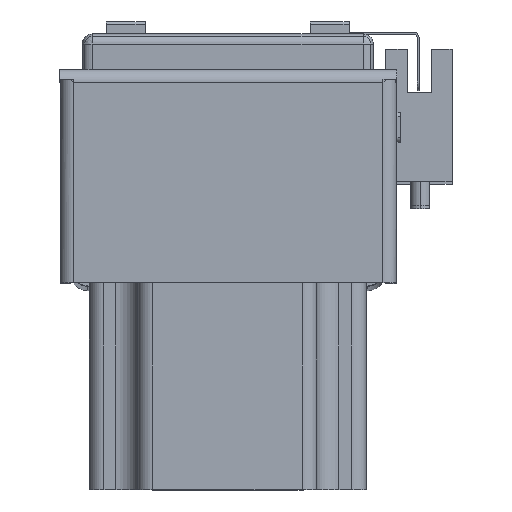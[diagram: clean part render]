
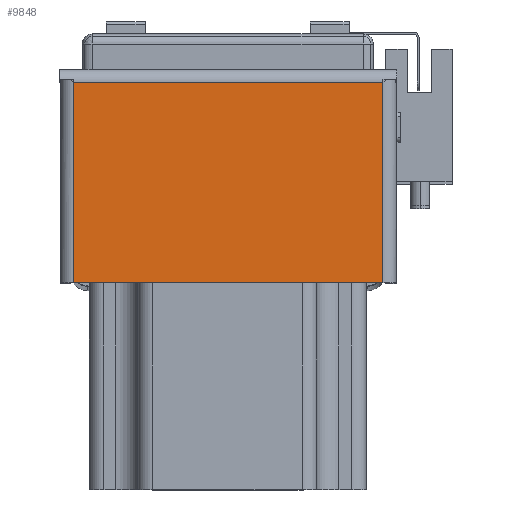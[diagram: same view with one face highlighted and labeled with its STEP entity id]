
A CAD part, top view. The second image highlights one B-rep face of the part: STEP entity #9848.
In plain terms, the highlighted planar face has unit normal (0, 0, 1) as drawn and (1, 0, 0) by its records, which use the part's own axes.
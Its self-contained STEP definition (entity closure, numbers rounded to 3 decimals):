
#6337 = CARTESIAN_POINT ( 'NONE',  ( 2., 41.263, 31.863 ) ) ;
#6360 = CARTESIAN_POINT ( 'NONE',  ( 2., 41.263, -31.863 ) ) ;
#6378 = CARTESIAN_POINT ( 'NONE',  ( 2., 0., 31.863 ) ) ;
#6382 = CARTESIAN_POINT ( 'NONE',  ( 2., 0., -31.863 ) ) ;
#8620 = EDGE_CURVE ( 'NONE', #18574, #18557, #24047, .T. ) ;
#8637 = EDGE_CURVE ( 'NONE', #18581, #18574, #24109, .T. ) ;
#8679 = EDGE_CURVE ( 'NONE', #18582, #18581, #24122, .T. ) ;
#8692 = EDGE_CURVE ( 'NONE', #18582, #18557, #24125, .T. ) ;
#9848 = ADVANCED_FACE ( 'NONE', ( #32086 ), #33787, .F. ) ;
#12821 = ORIENTED_EDGE ( 'NONE', *, *, #8637, .T. ) ;
#12844 = ORIENTED_EDGE ( 'NONE', *, *, #8620, .T. ) ;
#12873 = ORIENTED_EDGE ( 'NONE', *, *, #8692, .F. ) ;
#12901 = ORIENTED_EDGE ( 'NONE', *, *, #8679, .T. ) ;
#17237 = EDGE_LOOP ( 'NONE', ( #12901, #12821, #12844, #12873 ) ) ;
#18557 = VERTEX_POINT ( 'NONE', #6382 ) ;
#18574 = VERTEX_POINT ( 'NONE', #6378 ) ;
#18581 = VERTEX_POINT ( 'NONE', #6337 ) ;
#18582 = VERTEX_POINT ( 'NONE', #6360 ) ;
#24047 = LINE ( 'NONE', #25135, #24048 ) ;
#24048 = VECTOR ( 'NONE', #25126, 1000. ) ;
#24062 = VECTOR ( 'NONE', #25161, 1000. ) ;
#24109 = LINE ( 'NONE', #25167, #24062 ) ;
#24122 = LINE ( 'NONE', #25211, #24148 ) ;
#24125 = LINE ( 'NONE', #25282, #24149 ) ;
#24148 = VECTOR ( 'NONE', #25227, 1000. ) ;
#24149 = VECTOR ( 'NONE', #25248, 1000. ) ;
#25126 = DIRECTION ( 'NONE',  ( 0., 0., -1. ) ) ;
#25135 = CARTESIAN_POINT ( 'NONE',  ( 2., 0., -32.6 ) ) ;
#25161 = DIRECTION ( 'NONE',  ( 0., -1., 0. ) ) ;
#25167 = CARTESIAN_POINT ( 'NONE',  ( 2., 42., 31.863 ) ) ;
#25211 = CARTESIAN_POINT ( 'NONE',  ( 2., 41.263, -31.863 ) ) ;
#25227 = DIRECTION ( 'NONE',  ( 0., 0., 1. ) ) ;
#25248 = DIRECTION ( 'NONE',  ( 0., -1., 0. ) ) ;
#25282 = CARTESIAN_POINT ( 'NONE',  ( 2., 42., -31.863 ) ) ;
#29363 = AXIS2_PLACEMENT_3D ( 'NONE', #33792, #33809, #33819 ) ;
#32086 = FACE_OUTER_BOUND ( 'NONE', #17237, .T. ) ;
#33787 = PLANE ( 'NONE',  #29363 ) ;
#33792 = CARTESIAN_POINT ( 'NONE',  ( 2., 42., -32.6 ) ) ;
#33809 = DIRECTION ( 'NONE',  ( -1., 0., 0. ) ) ;
#33819 = DIRECTION ( 'NONE',  ( 0., 0., 1. ) ) ;
